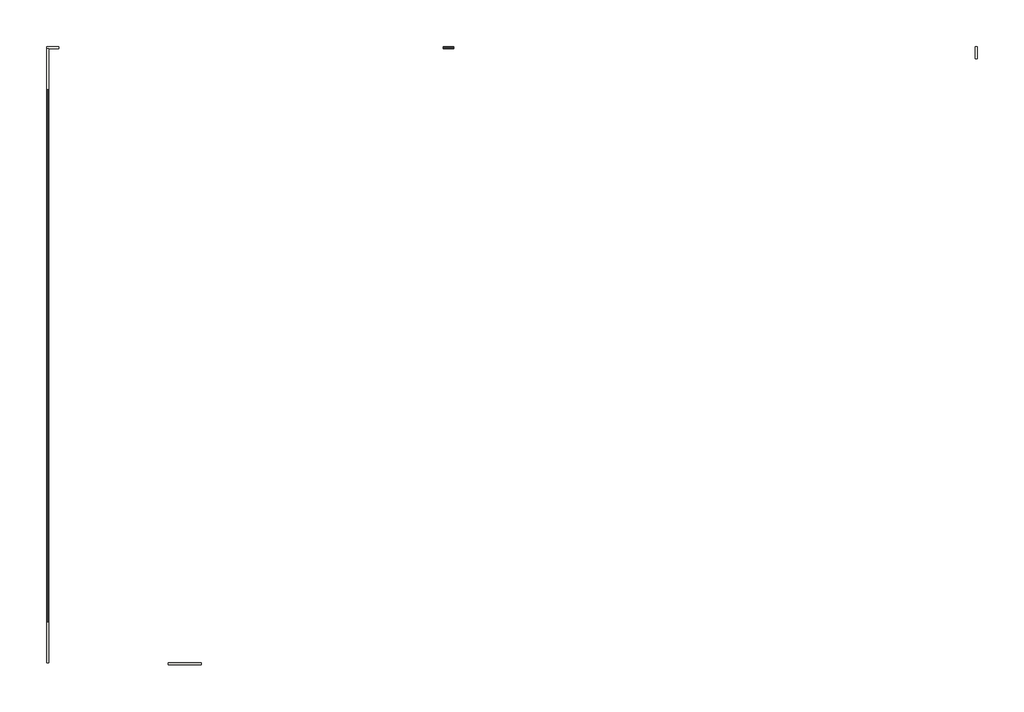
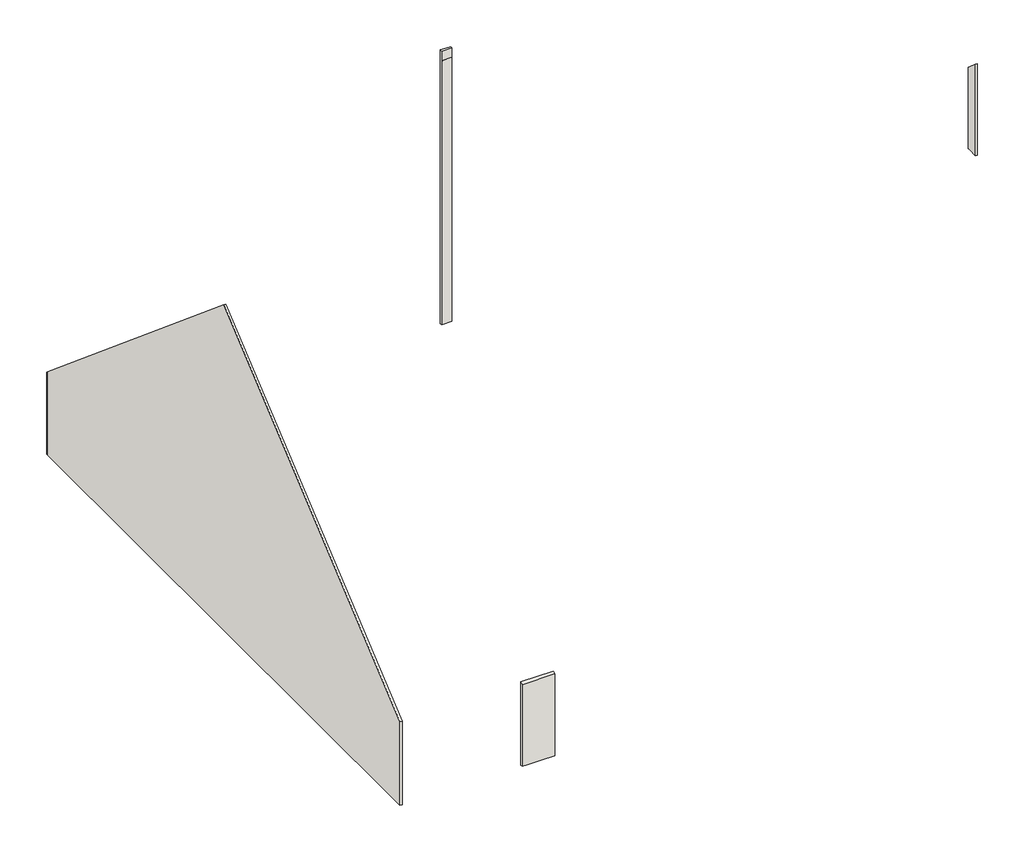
# One storey: 5 walls.
"""IFC4 building model written with IfcOpenShell, lengths in millimetres."""

import ifcopenshell
import ifcopenshell.guid

model = None  # the IFC model being written
_history = None  # IfcOwnerHistory: only IFC2X3 demands one
_inside = {}  # id of a spatial element -> (the spatial element, [elements in it])
_under = {}  # id of a project, library or spatial element -> (it, [spatial elements below it])
_declared = {}  # id of a project -> (the project, [libraries it declares])
_typed = {}  # id of a type object -> (the type object, [elements of that type])
_made_of = {}  # id of a material, layer set ... -> (it, [elements and type objects made of it])


def new_model(schema):
    """Start an empty IFC model of exactly this schema.

    Asked for "IFC4X3", IfcOpenShell would pick the latest addendum, in which some entities
    have other attributes; the version numbers below select the first issue.
    IFC2X3 requires an IfcOwnerHistory on every rooted entity: one is made here for all.
    """
    global model, _history
    if schema == "IFC4X3":
        model = ifcopenshell.file(schema_version=(4, 3, 0, 0))
    else:
        model = ifcopenshell.file(schema=schema)
    _inside.clear()
    _under.clear()
    _declared.clear()
    _typed.clear()
    _made_of.clear()
    _history = None
    if model.schema == "IFC2X3":
        org = make("IfcOrganization", Name="unknown")
        user = make(
            "IfcPersonAndOrganization",
            ThePerson=make("IfcPerson", FamilyName="unknown"),
            TheOrganization=org,
        )
        app = make(
            "IfcApplication",
            ApplicationDeveloper=org,
            Version="unknown",
            ApplicationFullName="unknown",
            ApplicationIdentifier="unknown",
        )
        _history = make(
            "IfcOwnerHistory",
            OwningUser=user,
            OwningApplication=app,
            ChangeAction="ADDED",
            CreationDate=0,
        )
    return model


def make(cls, **values):
    """One entity of the class cls with the attributes given. An attribute that is None is left unset."""
    return model.create_entity(
        cls, **{name: value for name, value in values.items() if value is not None}
    )


def rooted(cls, **values):
    """An entity with a GlobalId (a new one), such as an element, a storey or a relation."""
    return make(cls, GlobalId=ifcopenshell.guid.new(), OwnerHistory=_history, **values)


def si_unit(unit_type, name, prefix=None):
    """IfcSIUnit, for example si_unit("LENGTHUNIT", "METRE", prefix="MILLI")."""
    return make("IfcSIUnit", UnitType=unit_type, Prefix=prefix, Name=name)


def assignment(units):
    """IfcUnitAssignment: the units of a project."""
    return None if units is None else make("IfcUnitAssignment", Units=units)


def point(xyz):
    """IfcCartesianPoint."""
    return None if xyz is None else make("IfcCartesianPoint", Coordinates=xyz)


def direction(xyz):
    """IfcDirection."""
    return None if xyz is None else make("IfcDirection", DirectionRatios=xyz)


def frame(location, z_axis=None, x_axis=None):
    """IfcAxis2Placement3D, a coordinate frame: its origin and axes. An axis left out is left unset."""
    return make(
        "IfcAxis2Placement3D",
        Location=point(location),
        Axis=direction(z_axis),
        RefDirection=direction(x_axis),
    )


def origin():
    """The frame at (0, 0, 0) with its axes left unset."""
    return frame((0.0, 0.0, 0.0))


def place(relative_to, where):
    """IfcLocalPlacement: puts the frame where relative to a parent placement (None: the world)."""
    return make(
        "IfcLocalPlacement", PlacementRelTo=relative_to, RelativePlacement=where
    )


def context(
    kind, dimensions, precision=None, world=None, true_north=None, identifier=None
):
    """IfcGeometricRepresentationContext, for example the 3D "Model" context."""
    return make(
        "IfcGeometricRepresentationContext",
        ContextIdentifier=identifier,
        ContextType=kind,
        CoordinateSpaceDimension=dimensions,
        Precision=precision,
        WorldCoordinateSystem=world,
        TrueNorth=true_north,
    )


def project(units=None, contexts=None):
    """IfcProject with its units and contexts."""
    return rooted(
        "IfcProject",
        Name="project",
        RepresentationContexts=contexts,
        UnitsInContext=assignment(units),
    )


def spatial(cls, under=None, at=None, **own):
    """A site, building, storey or space (cls), placed at a placement, below another one or the project."""
    s = rooted(cls, ObjectPlacement=at, **own)
    if under is not None:
        _under.setdefault(under.id(), (under, []))[1].append(s)
    return s


def polyline(points):
    """IfcPolyline through the points."""
    return make("IfcPolyline", Points=[point(p) for p in points])


def outline(outer, holes=None, kind="AREA"):
    """IfcArbitraryClosedProfileDef: a profile drawn as a closed curve; with holes, ...WithVoids."""
    if holes is None:
        return make("IfcArbitraryClosedProfileDef", ProfileType=kind, OuterCurve=outer)
    return make(
        "IfcArbitraryProfileDefWithVoids",
        ProfileType=kind,
        OuterCurve=outer,
        InnerCurves=holes,
    )


def extrude(swept, where, along, depth):
    """IfcExtrudedAreaSolid: the profile swept, set in the frame where, extruded along a direction by depth."""
    return make(
        "IfcExtrudedAreaSolid",
        SweptArea=swept,
        Position=where,
        ExtrudedDirection=direction(along),
        Depth=depth,
    )


def faces_of(points, faces, orient=None, outer=None):
    """IfcFace entities. A face is a list of loops; a loop is a list of indices into points, from 0.

    orient and outer hold one flag for each loop. By default every Orientation is true, the
    first loop of a face is its IfcFaceOuterBound and the others are IfcFaceBound.
    """
    made = []
    for i, loops in enumerate(faces):
        bounds = []
        for j, loop in enumerate(loops):
            is_outer = j == 0 if outer is None else outer[i][j]
            bounds.append(
                make(
                    "IfcFaceOuterBound" if is_outer else "IfcFaceBound",
                    Bound=make("IfcPolyLoop", Polygon=[points[k] for k in loop]),
                    Orientation=True if orient is None else orient[i][j],
                )
            )
        made.append(make("IfcFace", Bounds=bounds))
    return made


def faceted_brep(points, faces, orient=None, outer=None, voids=None):
    """IfcFacetedBrep: a solid bounded by flat faces; with voids (closed shells), ...WithVoids."""
    shared = [point(p) for p in points]
    hull = make("IfcClosedShell", CfsFaces=faces_of(shared, faces, orient, outer))
    if voids is None:
        return make("IfcFacetedBrep", Outer=hull)
    return make(
        "IfcFacetedBrepWithVoids",
        Outer=hull,
        Voids=[
            make(cls, CfsFaces=faces_of(shared, fs, o, b)) for cls, fs, o, b in voids
        ],
    )


def shape(context_of_items, identifier, shape_type, items):
    """IfcShapeRepresentation: the items that make up one representation, for example the "Body"."""
    return make(
        "IfcShapeRepresentation",
        ContextOfItems=context_of_items,
        RepresentationIdentifier=identifier,
        RepresentationType=shape_type,
        Items=items,
    )


def made_of(thing, what):
    """Note that an element or type object is made of a material, layer set ...; save() writes the relation."""
    if what is not None:
        _made_of.setdefault(what.id(), (what, []))[1].append(thing)
    return thing


def element(
    cls,
    number,
    at=None,
    inside=None,
    cuts=None,
    type_object=None,
    material=None,
    context=None,
    identifier="Body",
    shape_type=None,
    held_by="IfcProductDefinitionShape",
    body=None,
    shapes=None,
    **own,
):
    """One element of the class cls, such as IfcWall. Its Tag is "e" and its number.

    at: its placement. inside: the storey or other place that contains it. cuts: it is an
    opening in that element (IfcRelVoidsElement). A single representation is given by context,
    identifier, shape_type and body (its items); several are given by shapes. held_by: the class
    of the entity that holds the representations. save() writes the other relations.
    """
    e = rooted(cls, Tag="e%d" % number, ObjectPlacement=at, **own)
    if body is not None:
        shapes = [shape(context, identifier, shape_type, body)]
    if shapes is not None:
        e.Representation = make(held_by, Representations=shapes)
    if inside is not None:
        _inside.setdefault(inside.id(), (inside, []))[1].append(e)
    if cuts is not None:
        rooted(
            "IfcRelVoidsElement", RelatingBuildingElement=cuts, RelatedOpeningElement=e
        )
    if type_object is not None:
        _typed.setdefault(type_object.id(), (type_object, []))[1].append(e)
    return made_of(e, material)


def aggregate(whole, parts):
    """IfcRelAggregates: a whole, such as a stair, and the parts it consists of."""
    return rooted("IfcRelAggregates", RelatingObject=whole, RelatedObjects=parts)


def save(model, path):
    """Write the relations noted so far, then the file.

    IfcRelAggregates (storeys below a building ...), IfcRelContainedInSpatialStructure (elements
    in a storey), IfcRelDefinesByType, IfcRelAssociatesMaterial and IfcRelDeclares: one each for
    every whole, place, type object, material and project.
    """
    for whole, parts in _under.values():
        aggregate(whole, parts)
    for where, things in _inside.values():
        rooted(
            "IfcRelContainedInSpatialStructure",
            RelatedElements=things,
            RelatingStructure=where,
        )
    for kind, things in _typed.values():
        rooted("IfcRelDefinesByType", RelatedObjects=things, RelatingType=kind)
    for what, things in _made_of.values():
        rooted("IfcRelAssociatesMaterial", RelatedObjects=things, RelatingMaterial=what)
    for by, libraries in _declared.values():
        rooted("IfcRelDeclares", RelatingContext=by, RelatedDefinitions=libraries)
    model.write(path)


model = new_model("IFC4")

# Units and contexts
model_context = context("Model", 3, world=origin())
ifc_project = project(units=[si_unit("LENGTHUNIT", "METRE", prefix="MILLI")], contexts=[model_context])

# Site, building, storey
site = spatial("IfcSite", under=ifc_project)
building = spatial("IfcBuilding", under=site)
storey = spatial("IfcBuildingStorey", under=building, Name="2.82_Arase acrotère", Elevation=2820.0)

# Walls
placement = place(None, origin())
element("IfcWall", 1, ObjectType="Enduit 2", at=placement, inside=storey, context=model_context, shape_type="Brep", body=[
    faceted_brep([(-8801.7726031, 7239.9231713, 2820.0), (-8801.7726031, 7239.9231713, 3670.5379336), (-8801.7726031, 7119.9231713, 3771.2298894), (-8801.7726031, 7119.9231713, 2820.0), (-8821.7726031, 7239.9231713, 3670.5379336), (-8821.7726031, 7239.9231713, 2820.0), (-8821.7726031, 7219.9231713, 2820.0), (-8821.7726031, 7119.9231713, 2820.0), (-8821.7726031, 7119.9231713, 3771.2298894), (-8821.7726031, 7219.9231713, 3687.3199262)], [[[0, 1, 2, 3]], [[4, 5, 6, 7, 8, 9]], [[5, 0, 3, 7, 6]], [[1, 0, 5, 4]], [[1, 4, 9, 8, 2]], [[3, 2, 8, 7]]]),
])
element("IfcWall", 2, ObjectType="Enduit 2", at=placement, inside=storey, context=model_context, shape_type="SweptSolid", body=[
    extrude(outline(polyline([(7239.9231713, 5670.0), (7239.9231713, 2820.0), (7219.9231713, 2820.0), (7219.9231713, 5569.7323124), (7220.2592048, 5569.7558102), (7220.2592048, 5670.0), (7239.9231713, 5670.0)])), frame((-14021.7726031, 0.0, 0.0), z_axis=(1.0, 0.0, 0.0), x_axis=(0.0, 1.0, 0.0)), (0.0, 0.0, 1.0), 100.0),
])
element("IfcWall", 3, ObjectType="Enduit 2", at=placement, inside=storey, context=model_context, shape_type="Brep", body=[
    faceted_brep([(-17901.7726031, 7219.9231713, 3687.3199262), (-17901.7726031, 7219.9231713, 2820.0), (-17881.7726031, 7219.9231713, 2820.0), (-17781.7726031, 7219.9231713, 2820.0), (-17781.7726031, 7219.9231713, 3687.3199262), (-17881.7726031, 7219.9231713, 3687.3199262), (-17901.7726031, 7239.9231713, 2820.0), (-17901.7726031, 7239.9231713, 3670.5379336), (-17781.7726031, 7239.9231713, 3670.5379336), (-17781.7726031, 7239.9231713, 2820.0)], [[[0, 1, 2, 3, 4, 5]], [[6, 7, 8, 9]], [[1, 6, 9, 3, 2]], [[7, 0, 5, 4, 8]], [[1, 0, 7, 6]], [[4, 3, 9, 8]]]),
])
element("IfcWall", 4, ObjectType="Enduit 2", at=placement, inside=storey, context=model_context, shape_type="Brep", body=[
    faceted_brep([(-16710.6456194, 1189.9231713, 2820.0), (-16673.4883319, 1189.9231713, 2820.0), (-16542.0669757, 1189.9231713, 2820.0), (-16390.6456194, 1189.9231713, 2820.0), (-16390.6456194, 1189.9231713, 3670.5379336), (-16710.6456194, 1189.9231713, 3670.5379336), (-16710.6456194, 1209.9231713, 2820.0), (-16710.6456194, 1209.9231713, 3687.3199262), (-16390.6456194, 1209.9231713, 3687.3199262), (-16390.6456194, 1209.9231713, 2820.0), (-16542.0669757, 1209.9231713, 2820.0), (-16693.4883319, 1209.9231713, 2820.0)], [[[0, 1, 2, 3, 4, 5]], [[6, 7, 8, 9, 10, 11]], [[3, 2, 1, 0, 6, 11, 10, 9]], [[4, 3, 9, 8]], [[0, 5, 7, 6]], [[5, 4, 8, 7]]]),
])
element("IfcWall", 5, ObjectType="Enduit 2", at=placement, inside=storey, context=model_context, shape_type="SweptSolid", body=[
    extrude(outline(polyline([(7219.9231713, 2820.0), (1209.9231713, 2820.0), (1209.9231713, 3687.3199262), (4214.9231713, 6208.8143179), (7219.9231713, 3687.3199262), (7219.9231713, 2820.0)])), frame((-17901.7726031, 0.0, 0.0), z_axis=(1.0, 0.0, 0.0), x_axis=(0.0, 1.0, 0.0)), (0.0, 0.0, 1.0), 20.0),
])

save(model, "model.ifc")
